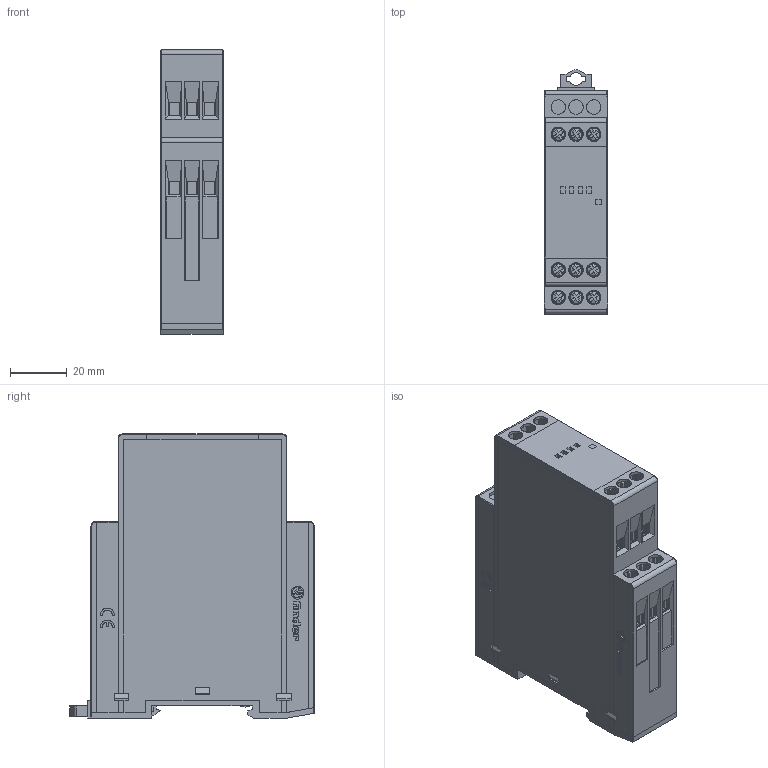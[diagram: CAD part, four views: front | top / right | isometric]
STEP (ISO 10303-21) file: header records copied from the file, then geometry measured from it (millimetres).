
FILE_DESCRIPTION(('STEP AP214'),'2;1');
FILE_NAME('7062.stp','2013-03-25T14:25:22',(''),(''),'2007.1.106','THINKDESIGN','');
FILE_SCHEMA(('AUTOMOTIVE_DESIGN'));
Length unit declared in the file: millimetre
Products named in the file (1): top
Bounding box: 22.5 x 86.25 x 100.3 mm (x, y, z)
Surface area: 33092.4 mm2 (no closed solid volume)
Topology: 0 solids, 0 shells, 1526 faces, 9361 edges, 9334 vertices
Faces by surface type: plane 1241, bspline 179, cylinder 106
Full cylindrical faces by diameter (mm): 3 x2, 5.1 x12
Entity records: 83528 total; most frequent: CARTESIAN_POINT 30294, DIRECTION 11036, COMPOSITE_CURVE_SEGMENT 9361, TRIMMED_CURVE 8103, VECTOR 7914, LINE 7914, AXIS2_PLACEMENT_3D 1561, OUTER_BOUNDARY_CURVE 1526
